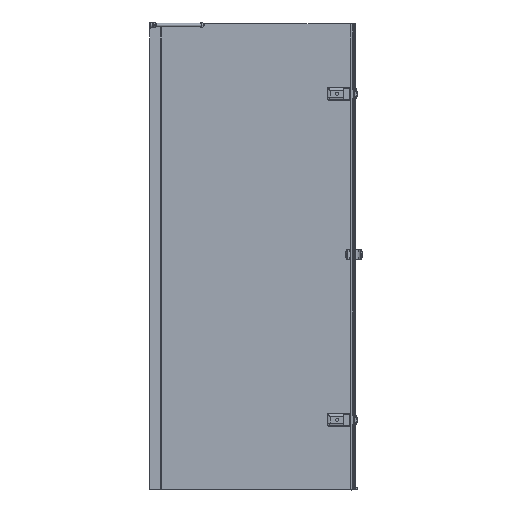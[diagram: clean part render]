
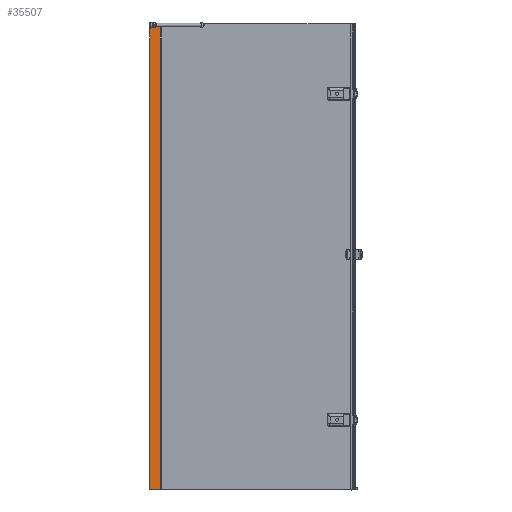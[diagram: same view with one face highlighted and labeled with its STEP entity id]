
A CAD part, left-side view. The second image highlights one B-rep face of the part: STEP entity #35507.
In plain terms, the highlighted planar face has unit normal (-1, 0, 0).
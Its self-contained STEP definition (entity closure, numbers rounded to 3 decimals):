
#1326=PLANE($,#38284);
#3455=FACE_OUTER_BOUND($,#5540,.T.);
#5540=EDGE_LOOP($,(#28248,#28249,#28250,#28251));
#8345=LINE($,#72985,#11588);
#8346=LINE($,#72987,#11589);
#8347=LINE($,#72989,#11590);
#8348=LINE($,#72990,#11591);
#11588=VECTOR($,#45392,44.25);
#11589=VECTOR($,#45393,2000.);
#11590=VECTOR($,#45394,44.25);
#11591=VECTOR($,#45395,2000.);
#16336=VERTEX_POINT($,#72983);
#16337=VERTEX_POINT($,#72984);
#16338=VERTEX_POINT($,#72986);
#16339=VERTEX_POINT($,#72988);
#20493=EDGE_CURVE($,#16336,#16337,#8345,.T.);
#20494=EDGE_CURVE($,#16336,#16338,#8346,.T.);
#20495=EDGE_CURVE($,#16339,#16338,#8347,.T.);
#20496=EDGE_CURVE($,#16339,#16337,#8348,.T.);
#28248=ORIENTED_EDGE($,*,*,#20493,.F.);
#28249=ORIENTED_EDGE($,*,*,#20494,.T.);
#28250=ORIENTED_EDGE($,*,*,#20495,.F.);
#28251=ORIENTED_EDGE($,*,*,#20496,.T.);
#35507=ADVANCED_FACE($,(#3455),#1326,.T.);
#38284=AXIS2_PLACEMENT_3D($,#72982,#45390,#45391);
#45390=DIRECTION('center_axis',(-1.,0.,0.));
#45391=DIRECTION('ref_axis',(0.,-1.,0.));
#45392=DIRECTION($,(0.,1.,0.));
#45393=DIRECTION($,(0.,0.,1.));
#45394=DIRECTION($,(0.,-1.,0.));
#45395=DIRECTION($,(0.,0.,-1.));
#72982=CARTESIAN_POINT('Origin',(1235.019,843.956,-514.056));
#72983=CARTESIAN_POINT('',(1235.019,801.706,-514.056));
#72984=CARTESIAN_POINT('',(1235.019,845.956,-514.056));
#72985=CARTESIAN_POINT($,(1235.019,831.956,-514.056));
#72986=CARTESIAN_POINT('',(1235.019,801.706,1485.944));
#72987=CARTESIAN_POINT($,(1235.019,801.706,-514.056));
#72988=CARTESIAN_POINT('',(1235.019,845.956,1485.944));
#72989=CARTESIAN_POINT($,(1235.019,845.956,1485.944));
#72990=CARTESIAN_POINT($,(1235.019,845.956,1485.944));
